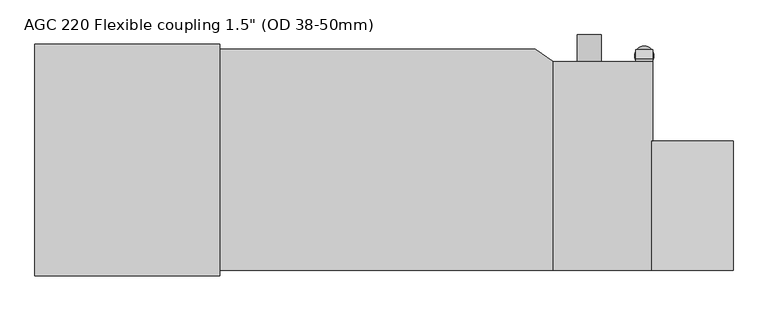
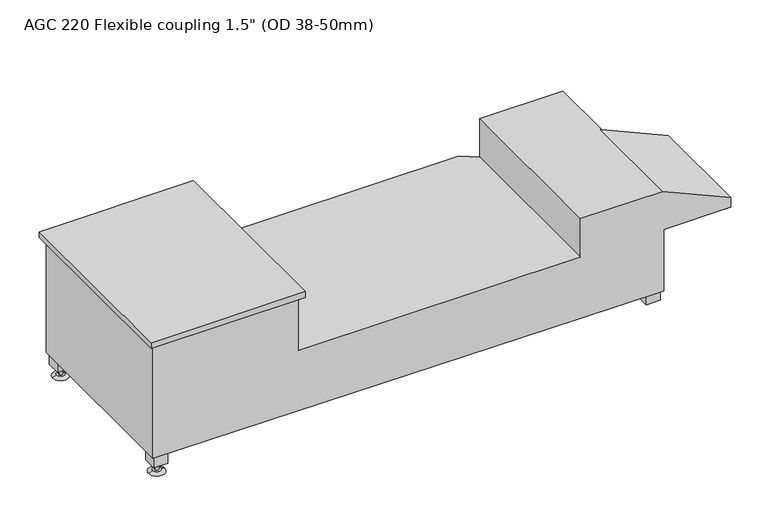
"""IFC4 building model written with IfcOpenShell, lengths in millimetres: unitary equipment geometry."""

from ifc_helpers import new_model, si_unit, point, frame, frame_2d, origin, place, context, project, spatial, polyline, circle_curve, trimmed, segment, composite_curve, outline, extrude, source, transform, mapped, element, save
from ifc_brep_helpers import plane_surface, cylinder_surface, revolved_surface, advanced_brep


def unitary_equipment_26c152bc(model_context):
    return source(origin(), model_context, "Body", "SolidModel", [
        extrude(outline(composite_curve([segment(trimmed(circle_curve(frame_2d((-613.5, -207.5)), 5.0), [point((-618.5, -207.5))], [point((-608.5, -207.5))], False, "CARTESIAN"), True, "CONTINUOUS"), segment(trimmed(circle_curve(frame_2d((-613.5, -207.5)), 5.0), [point((-608.5, -207.5))], [point((-618.5, -207.5))], False, "CARTESIAN"), True, "CONTINUOUS")], self_intersect=False)), frame((0.0, 0.0, 5.0), z_axis=(0.0, 0.0, 1.0), x_axis=(1.0, 0.0, 0.0)), (0.0, 0.0, 1.0), 20.0),
        advanced_brep(
        [(-623.5, -207.5, 5.0), (-603.5, -207.5, 5.0), (-633.5, -207.5, 0.0), (-593.5, -207.5, 0.0)],
        [
            (0, 1, circle_curve(frame((-613.5, -207.5, 5.0), z_axis=(0.0, 0.0, 1.0), x_axis=(-1.0, 0.0, 0.0)), 10.0)),
            (1, 0, circle_curve(frame((-613.5, -207.5, 5.0), z_axis=(0.0, 0.0, 1.0), x_axis=(1.0, 0.0, 0.0)), 10.0)),
            (2, 3, circle_curve(frame((-613.5, -207.5, 0.0), z_axis=(0.0, 0.0, -1.0), x_axis=(1.0, 0.0, 0.0)), 20.0)),
            (3, 2, circle_curve(frame((-613.5, -207.5, 0.0), z_axis=(0.0, 0.0, -1.0), x_axis=(-1.0, 0.0, 0.0)), 20.0)),
            (2, 0),
            (1, 3),
        ],
        [
            plane_surface(frame((-613.5, -207.5, 5.0), z_axis=(0.0, 0.0, 1.0), x_axis=(0.0, -1.0, 0.0))),
            plane_surface(frame((-613.5, -207.5, 0.0), z_axis=(0.0, 0.0, -1.0), x_axis=(0.0, -1.0, 0.0))),
            revolved_surface(polyline([(-603.5, -207.5, 5.0), (-593.5, -207.5, 0.0)]), (-613.5, -207.5, 10.0), (0.0, 0.0, -1.0)),
            revolved_surface(polyline([(-623.5, -207.5, 5.0), (-633.5, -207.5, 0.0)]), (-613.5, -207.5, 10.0), (0.0, 0.0, -1.0)),
        ],
        [
            (0, [[1, 2]]),
            (1, [[3, 4]]),
            (2, [[-3, 5, -2, 6]]),
            (3, [[-4, -6, -1, -5]]),
        ],
    ),
        extrude(outline(polyline([(229.0, 25.0), (204.0, 25.0), (204.0, 50.0), (209.0, 50.0), (229.0, 30.0), (229.0, 25.0)])), frame((601.0, 0.0, 0.0), z_axis=(1.0, 0.0, 0.0), x_axis=(0.0, 1.0, 0.0)), (0.0, 0.0, 1.0), 35.0),
        advanced_brep(
        [(628.5, 216.5, 5.0), (608.5, 216.5, 5.0), (638.5, 216.5, 0.0), (598.5, 216.5, 0.0)],
        [
            (0, 1, circle_curve(frame((618.5, 216.5, 5.0), z_axis=(0.0, 0.0, 1.0), x_axis=(1.0, 0.0, 0.0)), 10.0)),
            (1, 0, circle_curve(frame((618.5, 216.5, 5.0), z_axis=(0.0, 0.0, 1.0), x_axis=(-1.0, 0.0, 0.0)), 10.0)),
            (2, 3, circle_curve(frame((618.5, 216.5, 0.0), z_axis=(0.0, 0.0, -1.0), x_axis=(-1.0, 0.0, 0.0)), 20.0)),
            (3, 2, circle_curve(frame((618.5, 216.5, 0.0), z_axis=(0.0, 0.0, -1.0), x_axis=(1.0, 0.0, 0.0)), 20.0)),
            (3, 1),
            (0, 2),
        ],
        [
            plane_surface(frame((618.5, 216.5, 5.0), z_axis=(0.0, 0.0, 1.0), x_axis=(0.0, 1.0, 0.0))),
            plane_surface(frame((618.5, 216.5, 0.0), z_axis=(0.0, 0.0, -1.0), x_axis=(0.0, 1.0, 0.0))),
            revolved_surface(polyline([(628.5, 216.5, 5.0), (638.5, 216.5, 0.0)]), (618.5, 216.5, 10.0), (0.0, 0.0, -1.0)),
            revolved_surface(polyline([(608.5, 216.5, 5.0), (598.5, 216.5, 0.0)]), (618.5, 216.5, 10.0), (0.0, 0.0, -1.0)),
        ],
        [
            (0, [[1, 2]]),
            (1, [[3, 4]]),
            (2, [[-4, 5, -1, 6]]),
            (3, [[-3, -6, -2, -5]]),
        ],
    ),
        extrude(outline(composite_curve([segment(trimmed(circle_curve(frame_2d((618.5, 216.5)), 5.0), [point((623.5, 216.5))], [point((613.5, 216.5))], False, "CARTESIAN"), True, "CONTINUOUS"), segment(trimmed(circle_curve(frame_2d((618.5, 216.5)), 5.0), [point((613.5, 216.5))], [point((623.5, 216.5))], False, "CARTESIAN"), True, "CONTINUOUS")], self_intersect=False)), frame((0.0, 0.0, 5.0), z_axis=(0.0, 0.0, 1.0), x_axis=(1.0, 0.0, 0.0)), (0.0, 0.0, 1.0), 20.0),
        advanced_brep(
        [(636.0, -230.0, 213.0), (636.0, -230.0, 50.0), (636.0, -22.3913393, 25.0), (636.0, 204.0, 25.0), (636.0, 204.0, 313.5), (636.0, 39.5, 313.5), (636.0, 39.5, 312.6841956), (636.0, 39.5, 213.0), (429.0, -22.3913393, 25.0), (429.0, 204.0, 25.0), (429.0, 204.0, 213.0), (429.0, 204.0, 313.5), (479.0, 204.0, 229.0), (529.0, 204.0, 229.0), (-636.0, 230.0, 55.0), (-636.0, -230.0, 55.0), (-636.0, -230.0, 355.0), (-636.0, 230.0, 355.0), (429.0, -230.0, 50.0), (803.0, -230.0, 213.0), (803.0, -230.0, 238.0), (634.1757942, -230.0, 313.5), (429.0, -230.0, 313.5), (429.0, -230.0, 213.0), (-274.0, -230.0, 213.0), (-274.0, -230.0, 355.0), (-610.350781, -225.0, 54.2774868), (-596.0, -225.0, 54.2101122), (-596.0, -222.2024916, 53.8732394), (391.8681518, 230.0, 26.0459676), (-596.0, -190.0, 53.8732394), (-631.0, -190.0, 54.8591549), (-631.0, -225.0, 54.8591549), (-596.0, 225.0, 53.8732394), (-631.0, 225.0, 54.8591549), (-631.0, 190.0, 54.8591549), (-596.0, 190.0, 53.8732394), (-274.0, 230.0, 355.0), (-274.0, 230.0, 213.0), (391.8681518, 230.0, 213.0), (-596.0, -225.0, 25.0), (-631.0, -225.0, 25.0), (-631.0, -190.0, 25.0), (-596.0, -190.0, 25.0), (-596.0, 225.0, 25.0), (-596.0, 190.0, 25.0), (-631.0, 190.0, 25.0), (-631.0, 225.0, 25.0), (596.0, -225.0, 25.0), (596.0, -190.0, 25.0), (631.0, -190.0, 25.0), (631.0, -225.0, 25.0), (631.0, -225.0, 49.3979057), (596.0, -225.0, 49.3979057), (631.0, -190.0, 45.1832453), (596.0, -190.0, 45.1832453), (-263.0, 241.0, 370.0), (-647.0, 241.0, 370.0), (-647.0, -241.0, 370.0), (-263.0, -241.0, 370.0), (803.0, 39.5, 238.0), (803.0, 39.5, 213.0), (634.1757942, 39.5, 313.5), (-263.0, 241.0, 355.0), (-263.0, -241.0, 355.0), (-647.0, -241.0, 355.0), (-647.0, 241.0, 355.0), (479.0, 260.0, 229.0), (529.0, 260.0, 229.0)],
        [
            (0, 1),
            (1, 2),
            (2, 3),
            (3, 4),
            (4, 5),
            (5, 6),
            (6, 7),
            (7, 0),
            (2, 8),
            (8, 9),
            (9, 3),
            (9, 10),
            (10, 11),
            (11, 4),
            (12, 13, circle_curve(frame((504.0, 204.0, 229.0), z_axis=(0.0, -1.0, 0.0), x_axis=(1.0, 0.0, 0.0)), 25.0)),
            (13, 12, circle_curve(frame((504.0, 204.0, 229.0), z_axis=(0.0, -1.0, 0.0), x_axis=(1.0, 0.0, 0.0)), 25.0)),
            (14, 15),
            (15, 16),
            (16, 17),
            (17, 14),
            (15, 18),
            (18, 1),
            (0, 19),
            (19, 20),
            (20, 21),
            (21, 22),
            (22, 23),
            (23, 24),
            (24, 25),
            (25, 16),
            (15, 26),
            (26, 27),
            (27, 28),
            (28, 8),
            (8, 18),
            (14, 29),
            (29, 9),
            (28, 30),
            (30, 31),
            (31, 32),
            (32, 26),
            (33, 34),
            (34, 35),
            (35, 36),
            (36, 33),
            (17, 37),
            (37, 38),
            (38, 39),
            (39, 29),
            (10, 39),
            (38, 24),
            (23, 10),
            (40, 41),
            (41, 42),
            (42, 43),
            (43, 40),
            (44, 45),
            (45, 46),
            (46, 47),
            (47, 44),
            (48, 49),
            (49, 50),
            (50, 51),
            (51, 48),
            (43, 30),
            (27, 40),
            (42, 31),
            (41, 32),
            (47, 34),
            (33, 44),
            (46, 35),
            (45, 36),
            (51, 52),
            (52, 53),
            (53, 48),
            (50, 54),
            (54, 52),
            (49, 55),
            (55, 54),
            (53, 55),
            (56, 57),
            (57, 58),
            (58, 59),
            (59, 56),
            (37, 25),
            (60, 61),
            (61, 7),
            (6, 60),
            (19, 61),
            (60, 20),
            (6, 62),
            (62, 21),
            (62, 5),
            (11, 22),
            (63, 64),
            (64, 65),
            (65, 66),
            (66, 63),
            (56, 63),
            (66, 57),
            (65, 58),
            (64, 59),
            (67, 68, circle_curve(frame((504.0, 260.0, 229.0), z_axis=(0.0, 1.0, 0.0), x_axis=(1.0, 0.0, 0.0)), 25.0)),
            (68, 67, circle_curve(frame((504.0, 260.0, 229.0), z_axis=(0.0, 1.0, 0.0), x_axis=(1.0, 0.0, 0.0)), 25.0)),
            (68, 13),
            (12, 67),
        ],
        [
            plane_surface(frame((636.0, -230.0, 213.0), z_axis=(1.0, 0.0, 0.0), x_axis=(0.0, 0.0, -1.0))),
            plane_surface(frame((636.0, -22.3913393, 25.0), z_axis=(0.0, 0.0, -1.0), x_axis=(-1.0, 0.0, 0.0))),
            plane_surface(frame((636.0, 204.0, 25.0), z_axis=(0.0, 1.0, 0.0), x_axis=(-1.0, 0.0, 0.0))),
            plane_surface(frame((-636.0, 0.0, 134.0), z_axis=(-1.0, 0.0, 0.0), x_axis=(0.0, 0.0, -1.0))),
            plane_surface(frame((-636.0, -230.0, 134.0), z_axis=(0.0, -1.0, 0.0), x_axis=(0.0, 0.0, -1.0))),
            plane_surface(frame((-636.0, -230.0, 55.0), z_axis=(-0.004661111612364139, -0.11955387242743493, -0.9928167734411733), x_axis=(0.0, 0.9928275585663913, -0.11955517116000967))),
            plane_surface(frame((-636.0, 0.0, 55.0), z_axis=(-0.02815784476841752, 0.0, -0.9996034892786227), x_axis=(0.0, 1.0, 0.0))),
            plane_surface(frame((-636.0, 230.0, 134.0), z_axis=(0.0, 1.0, 0.0), x_axis=(0.0, 0.0, 1.0))),
            plane_surface(frame((-636.0, 0.0, 213.0), z_axis=(0.0, 0.0, 1.0), x_axis=(0.0, -1.0, 0.0))),
            plane_surface(frame((-596.0, -225.0, 25.0), z_axis=(0.0, 0.0, -1.0), x_axis=(0.0, -1.0, 0.0))),
            plane_surface(frame((-596.0, -225.0, 55.0), z_axis=(1.0, 0.0, 0.0), x_axis=(0.0, 0.0, -1.0))),
            plane_surface(frame((-596.0, -190.0, 55.0), z_axis=(0.0, 1.0, 0.0), x_axis=(0.0, 0.0, -1.0))),
            plane_surface(frame((-631.0, -190.0, 55.0), z_axis=(-1.0, 0.0, 0.0), x_axis=(0.0, 0.0, -1.0))),
            plane_surface(frame((-631.0, -225.0, 55.0), z_axis=(0.0, -1.0, 0.0), x_axis=(0.0, 0.0, -1.0))),
            plane_surface(frame((-596.0, 225.0, 55.0), z_axis=(0.0, 1.0, 0.0), x_axis=(0.0, 0.0, -1.0))),
            plane_surface(frame((-631.0, 225.0, 55.0), z_axis=(-1.0, 0.0, 0.0), x_axis=(0.0, 0.0, -1.0))),
            plane_surface(frame((-631.0, 190.0, 55.0), z_axis=(0.0, -1.0, 0.0), x_axis=(0.0, 0.0, -1.0))),
            plane_surface(frame((-596.0, 190.0, 55.0), z_axis=(1.0, 0.0, 0.0), x_axis=(0.0, 0.0, -1.0))),
            plane_surface(frame((596.0, -225.0, 55.0), z_axis=(0.0, -1.0, 0.0), x_axis=(0.0, 0.0, -1.0))),
            plane_surface(frame((631.0, -225.0, 55.0), z_axis=(1.0, 0.0, 0.0), x_axis=(0.0, 0.0, -1.0))),
            plane_surface(frame((631.0, -190.0, 55.0), z_axis=(0.0, 1.0, 0.0), x_axis=(0.0, 0.0, -1.0))),
            plane_surface(frame((596.0, -190.0, 55.0), z_axis=(-1.0, 0.0, 0.0), x_axis=(0.0, 0.0, -1.0))),
            plane_surface(frame((-274.0, -230.0, 370.0), z_axis=(0.0, 0.0, 1.0), x_axis=(0.0, 1.0, 0.0))),
            plane_surface(frame((-274.0, -230.0, 213.0), z_axis=(1.0, 0.0, 0.0), x_axis=(0.0, 1.0, 0.0))),
            plane_surface(frame((803.0, 39.5, 238.0), z_axis=(0.0, 1.0, 0.0), x_axis=(0.0, 0.0, -1.0))),
            plane_surface(frame((803.0, -230.0, 213.0), z_axis=(1.0, 0.0, 0.0), x_axis=(0.0, 1.0, 0.0))),
            plane_surface(frame((803.0, -230.0, 238.0), z_axis=(0.40824612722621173, 0.0, 0.9128718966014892), x_axis=(0.0, 1.0, 0.0))),
            plane_surface(frame((634.1757942, -230.0, 313.5), z_axis=(0.0, 0.0, 1.0), x_axis=(0.0, 1.0, 0.0))),
            plane_surface(frame((429.0, -230.0, 313.5), z_axis=(-1.0, 0.0, 0.0), x_axis=(0.0, 1.0, 0.0))),
            plane_surface(frame((429.0, -230.0, 213.0), z_axis=(0.0, 0.0, -1.0), x_axis=(0.0, 1.0, 0.0))),
            plane_surface(frame((429.0, 39.5, 313.5), z_axis=(0.0, -1.0, 0.0), x_axis=(-1.0, 0.0, 0.0))),
            plane_surface(frame((636.0, -230.0, 50.0), z_axis=(0.0, -0.11955517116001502, -0.9928275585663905), x_axis=(-1.0, 0.0, 0.0))),
            plane_surface(frame((-647.0, 241.0, 355.0), z_axis=(0.0, 0.0, -1.0), x_axis=(1.0, 0.0, 0.0))),
            plane_surface(frame((-263.0, 241.0, 370.0), z_axis=(0.0, 1.0, 0.0), x_axis=(0.0, 0.0, -1.0))),
            plane_surface(frame((-647.0, 241.0, 370.0), z_axis=(-1.0, 0.0, 0.0), x_axis=(0.0, 0.0, -1.0))),
            plane_surface(frame((-647.0, -241.0, 370.0), z_axis=(0.0, -1.0, 0.0), x_axis=(0.0, 0.0, -1.0))),
            plane_surface(frame((-263.0, -241.0, 370.0), z_axis=(1.0, 0.0, 0.0), x_axis=(0.0, 0.0, -1.0))),
            plane_surface(frame((529.0, 260.0, 229.0), z_axis=(0.0, 1.0, 0.0), x_axis=(0.0, 0.0, -1.0))),
            cylinder_surface(frame((504.0, 260.0, 229.0), z_axis=(0.0, -1.0, 0.0), x_axis=(1.0, 0.0, 0.0)), 25.0),
            plane_surface(frame((391.8681518, 230.0, 370.0), z_axis=(0.5735764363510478, 0.8191520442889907, 0.0), x_axis=(0.0, 0.0, -1.0))),
        ],
        [
            (0, [[1, 2, 3, 4, 5, 6, 7, 8]]),
            (1, [[-3, 9, 10, 11]]),
            (2, [[-11, 12, 13, 14, -4], [15, 16]]),
            (3, [[17, 18, 19, 20]]),
            (4, [[21, 22, -1, 23, 24, 25, 26, 27, 28, 29, 30, -18]]),
            (5, [[-21, 31, 32, 33, 34, 35]]),
            (6, [[-17, 36, 37, -10, -34, 38, 39, 40, 41, -31], [42, 43, 44, 45]]),
            (7, [[-36, -20, 46, 47, 48, 49]]),
            (8, [[50, -48, 51, -28, 52]]),
            (9, [[53, 54, 55, 56]]),
            (9, [[57, 58, 59, 60]]),
            (9, [[61, 62, 63, 64]]),
            (10, [[-56, 65, -38, -33, 66]]),
            (11, [[-55, 67, -39, -65]]),
            (12, [[-54, 68, -40, -67]]),
            (13, [[-53, -66, -32, -41, -68]]),
            (14, [[-60, 69, -42, 70]]),
            (15, [[-59, 71, -43, -69]]),
            (16, [[-58, 72, -44, -71]]),
            (17, [[-57, -70, -45, -72]]),
            (18, [[-64, 73, 74, 75]]),
            (19, [[-63, 76, 77, -73]]),
            (20, [[-62, 78, 79, -76]]),
            (21, [[-61, -75, 80, -78]]),
            (22, [[81, 82, 83, 84]]),
            (23, [[-51, -47, 85, -29]]),
            (24, [[86, 87, -7, 88]]),
            (25, [[-24, 89, -86, 90]]),
            (26, [[-25, -90, -88, 91, 92]]),
            (27, [[-26, -92, 93, -5, -14, 94]]),
            (28, [[-27, -94, -13, -52]]),
            (29, [[-89, -23, -8, -87]]),
            (30, [[-93, -91, -6]]),
            (31, [[-2, -22, -35, -9], [-74, -77, -79, -80]]),
            (32, [[95, 96, 97, 98], [-19, -30, -85, -46]]),
            (33, [[-81, 99, -98, 100]]),
            (34, [[-82, -100, -97, 101]]),
            (35, [[-83, -101, -96, 102]]),
            (36, [[-84, -102, -95, -99]]),
            (37, [[103, 104]]),
            (38, [[-104, 105, -15, 106]]),
            (38, [[-103, -106, -16, -105]]),
            (39, [[-37, -49, -50, -12]]),
        ],
    ),
        extrude(outline(composite_curve([segment(trimmed(circle_curve(frame_2d((-613.5, 207.5)), 5.0), [point((-618.5, 207.5))], [point((-608.5, 207.5))], False, "CARTESIAN"), True, "CONTINUOUS"), segment(trimmed(circle_curve(frame_2d((-613.5, 207.5)), 5.0), [point((-608.5, 207.5))], [point((-618.5, 207.5))], False, "CARTESIAN"), True, "CONTINUOUS")], self_intersect=False)), frame((0.0, 0.0, 5.0), z_axis=(0.0, 0.0, 1.0), x_axis=(1.0, 0.0, 0.0)), (0.0, 0.0, 1.0), 20.0),
        advanced_brep(
        [(-623.5, 207.5, 5.0), (-603.5, 207.5, 5.0), (-633.5, 207.5, 0.0), (-593.5, 207.5, 0.0)],
        [
            (0, 1, circle_curve(frame((-613.5, 207.5, 5.0), z_axis=(6.7949912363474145e-12, 0.0, 1.0), x_axis=(-1.0, 0.0, 6.7950062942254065e-12)), 10.0)),
            (1, 0, circle_curve(frame((-613.5, 207.5, 5.0), z_axis=(6.7949912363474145e-12, 0.0, 1.0), x_axis=(1.0, 0.0, -6.795006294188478e-12)), 10.0)),
            (2, 3, circle_curve(frame((-613.5, 207.5, 0.0), z_axis=(-6.7949912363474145e-12, 0.0, -1.0), x_axis=(1.0, 0.0, -6.795006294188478e-12)), 20.0)),
            (3, 2, circle_curve(frame((-613.5, 207.5, 0.0), z_axis=(-6.7949912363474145e-12, 0.0, -1.0), x_axis=(-1.0, 0.0, 6.7950062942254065e-12)), 20.0)),
            (3, 1),
            (0, 2),
        ],
        [
            plane_surface(frame((-613.5, 207.5, 5.0), z_axis=(0.0, 0.0, 1.0), x_axis=(0.0, -1.0, 0.0))),
            plane_surface(frame((-613.5, 207.5, 0.0), z_axis=(0.0, 0.0, -1.0), x_axis=(0.0, -1.0, 0.0))),
            revolved_surface(polyline([(-623.4999999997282, 207.5, 5.0000000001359), (-633.5, 207.5, 0.0)]), (-613.5, 207.5, 10.0), (-6.7949912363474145e-12, 0.0, -1.0)),
            revolved_surface(polyline([(-603.5, 207.5, 5.0), (-593.4999999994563, 207.5, -2.718003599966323e-10)]), (-613.5, 207.5, 10.0), (-6.7949912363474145e-12, 0.0, -1.0)),
        ],
        [
            (0, [[1, 2]]),
            (1, [[3, 4]]),
            (2, [[-4, 5, -1, 6]]),
            (3, [[-3, -6, -2, -5]]),
        ],
    ),
    ])


if __name__ == "__main__":
    model = new_model("IFC4")
    model_context = context("Model", 3, world=origin())
    ifc_project = project(units=[si_unit("LENGTHUNIT", "METRE", prefix="MILLI")], contexts=[model_context])
    site = spatial("IfcSite", under=ifc_project)
    building = spatial("IfcBuilding", under=site)
    placement = place(None, origin())
    unitary_equipment_shape = unitary_equipment_26c152bc(model_context)
    element("IfcUnitaryEquipment", 1, ObjectType="ME_ST_UN_AGC grease capture_ACO : AGC 220 Flexible coupling 1.5\" (OD 38-50mm)", at=placement, inside=building, context=model_context, shape_type="MappedRepresentation", body=[
        mapped(unitary_equipment_shape, transform((0.0, 0.0, 0.0), x_axis=(1.0, 0.0, 0.0), y_axis=(0.0, 1.0, 0.0), z_axis=(0.0, 0.0, 1.0))),
    ])
    save(model, "model.ifc")
